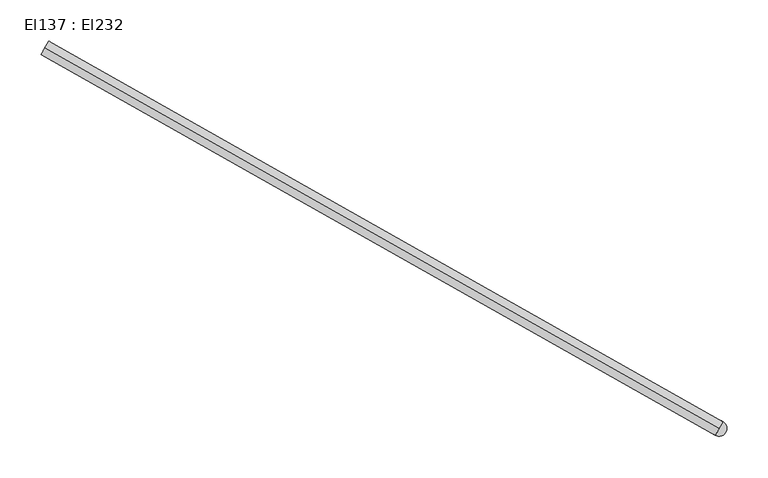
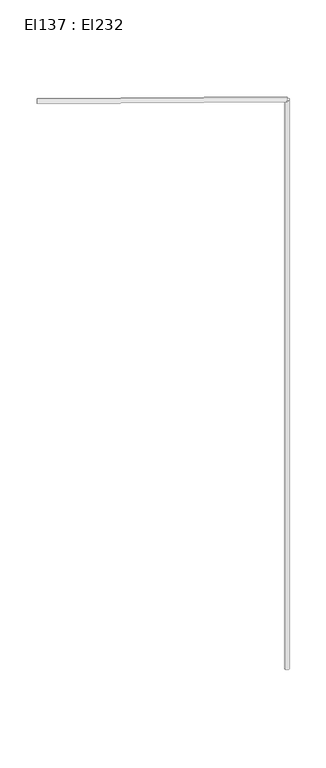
"""IFC4 building model written with IfcOpenShell, lengths in millimetres: cable carrier segment geometry, El137 : El232."""

from ifc_helpers import new_model, si_unit, point, frame, frame_2d, origin, place, context, project, spatial, circle_curve, trimmed, segment, composite_curve, outline, extrude, source, transform, mapped, element, save


def el137_el232_800fbdec(model_context):
    return source(origin(), model_context, "Body", "SweptSolid", [
        extrude(outline(composite_curve([segment(trimmed(circle_curve(frame_2d((11014.5176511, 14823.1851745)), 9.5), [point((11005.0176511, 14823.1851745))], [point((11024.0176511, 14823.1851745))], False, "CARTESIAN"), True, "CONTINUOUS"), segment(trimmed(circle_curve(frame_2d((11014.5176511, 14823.1851745)), 9.5), [point((11024.0176511, 14823.1851745))], [point((11005.0176511, 14823.1851745))], False, "CARTESIAN"), True, "CONTINUOUS")], self_intersect=False)), frame((0.0, 0.0, 1830.0), z_axis=(0.0, 0.0, 1.0), x_axis=(1.0, 0.0, 0.0)), (0.0, 0.0, 1.0), 2620.0),
        extrude(outline(composite_curve([segment(trimmed(circle_curve(frame_2d((0.0, -9.5)), 9.5), [point((0.0, -19.0))], [point((0.0, 0.0))], False, "CARTESIAN"), True, "CONTINUOUS"), segment(trimmed(circle_curve(frame_2d((0.0, -9.5)), 9.5), [point((0.0, 0.0))], [point((0.0, -19.0))], False, "CARTESIAN"), True, "CONTINUOUS")], self_intersect=False)), frame((11014.5175573, 14823.1849926, 4459.5), z_axis=(-0.8706251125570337, 0.49194706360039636, 0.0), x_axis=(-0.49194706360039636, -0.8706251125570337, 0.0)), (0.0, 0.0, 1.0), 943.36),
    ])


if __name__ == "__main__":
    model = new_model("IFC4")
    model_context = context("Model", 3, world=origin())
    ifc_project = project(units=[si_unit("LENGTHUNIT", "METRE", prefix="MILLI")], contexts=[model_context])
    site = spatial("IfcSite", under=ifc_project)
    building = spatial("IfcBuilding", under=site)
    placement = place(None, origin())
    el137_el232_shape = el137_el232_800fbdec(model_context)
    element("IfcCableCarrierSegment", 1, ObjectType="El137 : El232", at=placement, inside=building, context=model_context, shape_type="MappedRepresentation", body=[
        mapped(el137_el232_shape, transform((0.0, 0.0, 0.0), x_axis=(1.0, 0.0, 0.0), y_axis=(0.0, 1.0, 0.0), z_axis=(0.0, 0.0, 1.0))),
    ])
    save(model, "model.ifc")
